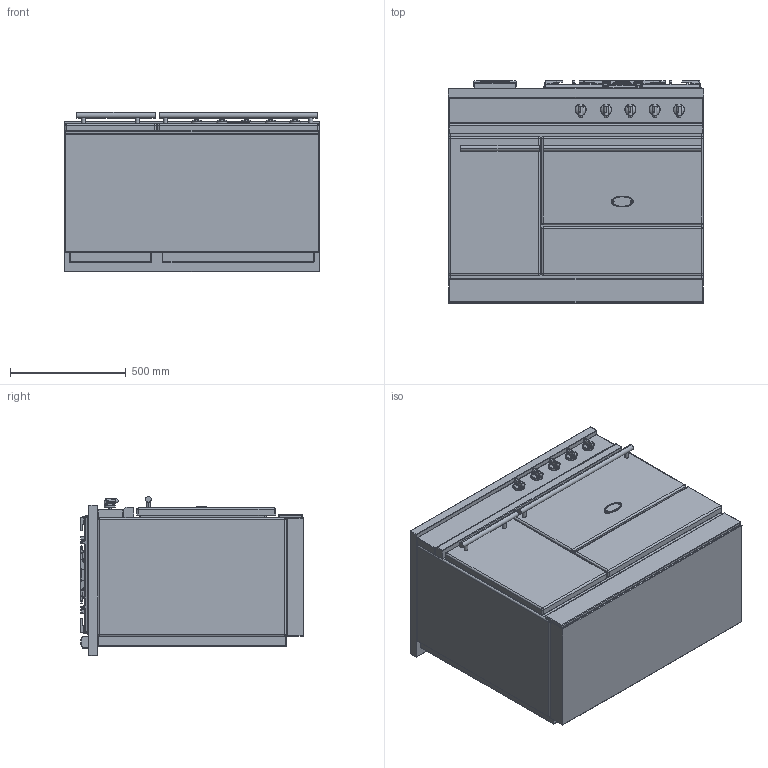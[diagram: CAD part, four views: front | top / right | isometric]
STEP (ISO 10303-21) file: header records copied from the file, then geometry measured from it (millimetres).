
FILE_DESCRIPTION((''),'2;1');
FILE_NAME('LMG1141_CHASSAGNE_ASM','2022-04-13T11:26:37',('stagiaire'),(''),'CREO PARAMETRIC BY PTC INC, 2021424','CREO PARAMETRIC BY PTC INC, 2021424','');
FILE_SCHEMA(('AP203_CONFIGURATION_CONTROLLED_3D_DESIGN_OF_MECHANICAL_PARTS_AND_ASSEMBLIES_MIM_LF { 1 0 10303 403 2 1 2 }'));
Products named in the file (20): BASE_EXP_CHASSAGNE_LMG1141; 65049009; 65650001; 65064012; 19150009; 88064012_ASM; BASE_EXPORT_CHASSAGNE_LMG1141_ASM; TABLE_1105G_CLASSIQUE_4_FEUX; 3KW; 1_5KW; 4KW; 6537023; 65149005; 90000565_ASM; 6537026; 90000566_ASM; CHEMINEE_2020_LG182_EXPORT_STEP; CHEMINEE_2020_LG371_EXPORT_STEP; TABLE_1105G_CLASSIQUE_4_FEUX_ASM; LMG1141_CHASSAGNE_ASM
Assembly tree (32 placements, depth 4):
  LMG1141_CHASSAGNE_ASM
    BASE_EXPORT_CHASSAGNE_LMG1141_ASM
      BASE_EXP_CHASSAGNE_LMG1141
      65049009
      65650001
      88064012_ASM  x5
        65064012
        19150009
    TABLE_1105G_CLASSIQUE_4_FEUX_ASM
      TABLE_1105G_CLASSIQUE_4_FEUX
      3KW  x2
      1_5KW
      4KW
      90000565_ASM  x2
        6537023
        65149005
      90000566_ASM
        6537026
        65149005  x4
      CHEMINEE_2020_LG182_EXPORT_STEP
      CHEMINEE_2020_LG371_EXPORT_STEP
Bounding box: 1105 x 965.5 x 688.5 mm (x, y, z)
Volume: 589398678.3 mm3; surface area: 9122225.7 mm2
Topology: 39 solids, 39 shells, 4725 faces, 12512 edges, 7869 vertices
Faces by surface type: cylinder 1600, plane 1320, bspline 1142, cone 255, sphere 248, torus 118, extrusion 42
Entity records: 151389 total; most frequent: CARTESIAN_POINT 54292, ORIENTED_EDGE 15662, DIRECTION 14401, EDGE_CURVE 7831, PRESENTATION_STYLE_ASSIGNMENT 4915, STYLED_ITEM 4915, AXIS2_PLACEMENT_3D 4868, CURVE_STYLE 4801
